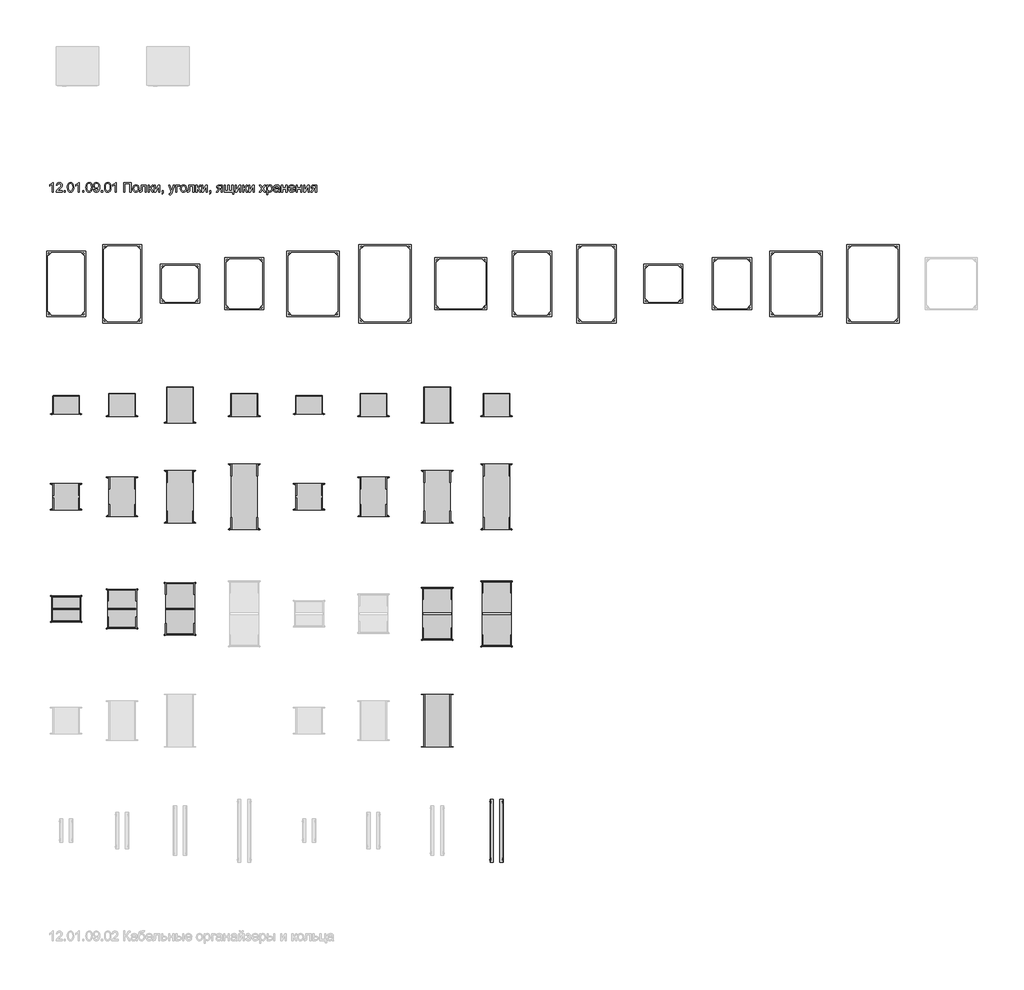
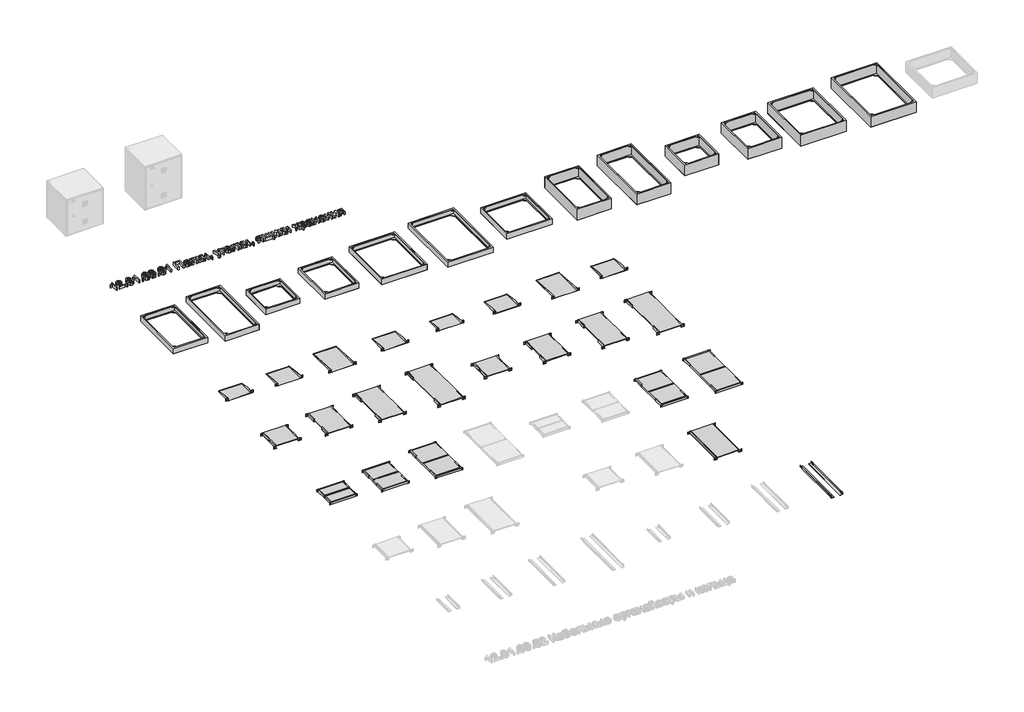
# One storey, part 4 of 9: 37 proxies.
"""IFC4 building model written with IfcOpenShell, lengths in millimetres."""

from ifc_helpers import new_model, si_unit, origin, origin_with_axes, place, context, project, spatial, polyline, outline, extrude, transform, mapped, element, save
from components import rs05_350p_7bdc1934, bs05_1h61_d823f380, bs05_1h62_e8783a7f, bs05_1h66_db48ce83, bs05_1h67_fe30b583, bs05_1h81_ce5c7a65, bs05_1h82_7e8a83d8, bs05_1h88_060fac11, bs05_2h61_8f00bbb0, bs05_2h62_645fab27, bs05_2h66_9faa6339, bs05_2h68_96ca8588, bs05_2h81_4a389308, bs05_2h82_ed295d53, fs05_1000pi_1325bcf8, fs05_400mp_c59a2a9c, fs05_400pi_c7cb46ca, fs05_600pi_6c495413, fs05_600pm_b98099e4, fs05_800pi_de279b3e, fs05_800pm_aac56196, fs05_1000pm_f160d74f, rs05_280m_469b61f3, rs05_550p_192c16dc, sr05_1000_026dfe76, sr05_1000_b6e2f19d, ss05_800pi_71e741bb

model = new_model("IFC4")

# Units and contexts
model_context = context("Model", 3, world=origin())
ifc_project = project(units=[si_unit("LENGTHUNIT", "METRE", prefix="MILLI")], contexts=[model_context])

# Site, building, storey
site = spatial("IfcSite", under=ifc_project)
building = spatial("IfcBuilding", under=site)
storey = spatial("IfcBuildingStorey", under=building, Name="Уровень 1", Elevation=0.0)

# Proxies
placement = place(None, origin())
element("IfcBuildingElementProxy", 1, Name="Надпись на модели 1", ObjectType="Надпись на модели 1", at=placement, inside=storey, context=model_context, shape_type="SweptSolid", body=[
    extrude(outline(polyline([(-45344.4287165, -25572.1712032), (-45362.8902549, -25572.1712032), (-45362.8902549, -25457.0750493), (-45380.3782357, -25469.532982), (-45399.8133319, -25478.8538955), (-45399.8133319, -25461.4019724), (-45372.7520338, -25444.1303378), (-45356.3277549, -25424.4788955), (-45344.4287165, -25424.4788955), (-45344.4287165, -25572.1712032)])), origin_with_axes(), (0.0, 0.0, 1.0), 50.0),
    extrude(outline(polyline([(-45205.967178, -25553.7096647), (-45205.967178, -25572.1712032), (-45302.8902549, -25572.1712032), (-45300.9070819, -25559.4428378), (-45289.6931395, -25539.845482), (-45266.5801588, -25518.4452416), (-45234.7051588, -25487.6880301), (-45228.7285963, -25477.0870686), (-45226.7364088, -25466.7745686), (-45228.615916, -25457.5302777), (-45234.2544376, -25449.845482), (-45242.9218054, -25444.666696), (-45253.8878511, -25442.9404339), (-45265.4037766, -25444.6261311), (-45274.3505915, -25449.6832224), (-45280.1243294, -25457.7150734), (-45282.1210242, -25468.3250493), (-45300.5825626, -25466.017357), (-45296.1069016, -25448.1597849), (-45286.4299184, -25435.1159147), (-45272.0564208, -25427.1381503), (-45253.4912165, -25424.4788955), (-45234.7907958, -25427.4356262), (-45220.4443415, -25436.3058186), (-45211.3172381, -25449.5570205), (-45208.2748703, -25465.6567801), (-45211.5561203, -25483.1627897), (-45222.4635722, -25501.2637512), (-45248.9118895, -25526.5582224), (-45270.1498703, -25544.3166359), (-45278.4791972, -25553.7096647), (-45205.967178, -25553.7096647)])), origin_with_axes(), (0.0, 0.0, 1.0), 50.0),
    extrude(outline(polyline([(-45178.2748703, -25572.1712032), (-45178.2748703, -25553.7096647), (-45159.8133319, -25553.7096647), (-45159.8133319, -25572.1712032), (-45178.2748703, -25572.1712032)])), origin_with_axes(), (0.0, 0.0, 1.0), 50.0),
    extrude(outline(polyline([(-45129.8133319, -25499.5149532), (-45128.4566612, -25475.8746287), (-45124.3866492, -25457.0209628), (-45117.6438607, -25442.665494), (-45108.2688607, -25432.5197609), (-45096.194041, -25426.4891118), (-45081.3517934, -25424.4788955), (-45059.7892934, -25429.2385109), (-45044.8974665, -25442.9584628), (-45036.2436203, -25464.8094243), (-45032.8902549, -25499.5149532), (-45034.233404, -25523.0200613), (-45038.2628511, -25541.8286551), (-45044.9650746, -25556.1976455), (-45054.326553, -25566.3839436), (-45066.428416, -25572.4551575), (-45081.3517934, -25574.4788955), (-45100.5344857, -25570.9632705), (-45115.1017934, -25560.4163955), (-45126.1354472, -25535.4374291), (-45129.8133319, -25499.5149532)]), holes=[polyline([(-45111.3517934, -25499.4788955), (-45109.1883319, -25528.5188594), (-45102.6979472, -25545.3262512), (-45093.0344857, -25553.3445806), (-45081.3517934, -25556.017357), (-45069.6691011, -25553.3355662), (-45060.0056395, -25545.2901936), (-45053.5152549, -25528.4737873), (-45051.3517934, -25499.4788955), (-45053.4431395, -25471.0924772), (-45059.717178, -25454.1543762), (-45069.3626107, -25445.7439195), (-45081.5681395, -25442.9404339), (-45093.1246299, -25445.4103859), (-45102.4094857, -25452.8202416), (-45109.1162165, -25470.8130301), (-45111.3517934, -25499.4788955)])]), origin_with_axes(), (0.0, 0.0, 1.0), 50.0),
    extrude(outline(polyline([(-44947.5056395, -25572.1712032), (-44965.967178, -25572.1712032), (-44965.967178, -25457.0750493), (-44983.4551588, -25469.532982), (-45002.8902549, -25478.8538955), (-45002.8902549, -25461.4019724), (-44975.8289569, -25444.1303378), (-44959.404678, -25424.4788955), (-44947.5056395, -25424.4788955), (-44947.5056395, -25572.1712032)])), origin_with_axes(), (0.0, 0.0, 1.0), 50.0),
    extrude(outline(polyline([(-44894.4287165, -25572.1712032), (-44894.4287165, -25553.7096647), (-44875.967178, -25553.7096647), (-44875.967178, -25572.1712032), (-44894.4287165, -25572.1712032)])), origin_with_axes(), (0.0, 0.0, 1.0), 50.0),
    extrude(outline(polyline([(-44845.967178, -25499.5149532), (-44844.6105073, -25475.8746287), (-44840.5404953, -25457.0209628), (-44833.7977069, -25442.665494), (-44824.4227069, -25432.5197609), (-44812.3478871, -25426.4891118), (-44797.5056395, -25424.4788955), (-44775.9431395, -25429.2385109), (-44761.0513126, -25442.9584628), (-44752.3974665, -25464.8094243), (-44749.0441011, -25499.5149532), (-44750.3872501, -25523.0200613), (-44754.4166972, -25541.8286551), (-44761.1189208, -25556.1976455), (-44770.4803992, -25566.3839436), (-44782.5822621, -25572.4551575), (-44797.5056395, -25574.4788955), (-44816.6883319, -25570.9632705), (-44831.2556395, -25560.4163955), (-44842.2892934, -25535.4374291), (-44845.967178, -25499.5149532)]), holes=[polyline([(-44827.5056395, -25499.4788955), (-44825.342178, -25528.5188594), (-44818.8517934, -25545.3262512), (-44809.1883319, -25553.3445806), (-44797.5056395, -25556.017357), (-44785.8229472, -25553.3355662), (-44776.1594857, -25545.2901936), (-44769.6691011, -25528.4737873), (-44767.5056395, -25499.4788955), (-44769.5969857, -25471.0924772), (-44775.8710242, -25454.1543762), (-44785.5164569, -25445.7439195), (-44797.7219857, -25442.9404339), (-44809.2784761, -25445.4103859), (-44818.5633319, -25452.8202416), (-44825.2700626, -25470.8130301), (-44827.5056395, -25499.4788955)])]), origin_with_axes(), (0.0, 0.0, 1.0), 50.0),
    extrude(outline(polyline([(-44730.5825626, -25535.2481262), (-44712.1210242, -25532.9404339), (-44708.9659761, -25543.4197008), (-44703.8277549, -25550.5546166), (-44688.1066011, -25556.017357), (-44673.1606876, -25552.501732), (-44663.0284761, -25543.1087032), (-44656.9888126, -25527.0630301), (-44654.3205434, -25505.6447609), (-44654.4287165, -25502.0389916), (-44669.1943415, -25516.0293762), (-44689.4407357, -25521.4019724), (-44706.2751708, -25518.1207224), (-44720.2880915, -25508.2769724), (-44729.7397141, -25493.0696407), (-44732.8902549, -25473.6976455), (-44729.5864689, -25453.6856262), (-44719.6751107, -25438.0005301), (-44704.787791, -25427.8593041), (-44686.5561203, -25424.4788955), (-44672.7865891, -25426.407982), (-44660.2520338, -25432.1952416), (-44649.7682597, -25441.5522128), (-44642.1510722, -25454.1904339), (-44637.5131516, -25471.6603859), (-44635.967178, -25495.5125493), (-44637.5086444, -25520.8025133), (-44642.1330434, -25540.3502897), (-44649.7998102, -25555.0392921), (-44660.4683799, -25565.7529339), (-44673.6790169, -25572.2974051), (-44688.9719857, -25574.4788955), (-44704.7562405, -25571.9052777), (-44717.3493895, -25564.1844243), (-44726.1564809, -25551.8031142), (-44730.5825626, -25535.2481262)]), holes=[polyline([(-44654.4287165, -25473.2649532), (-44656.420904, -25460.7529339), (-44662.3974665, -25451.1255301), (-44671.6733078, -25444.986708), (-44683.5633319, -25442.9404339), (-44695.8950626, -25445.1444604), (-44705.7748703, -25451.7565397), (-44712.2652549, -25461.8752296), (-44714.4287165, -25474.5990878), (-44712.3824424, -25486.0068402), (-44706.2436203, -25495.0618282), (-44696.607202, -25500.9707825), (-44684.0681395, -25502.9404339), (-44672.2727669, -25500.9707825), (-44662.7760722, -25495.0618282), (-44656.5155554, -25485.6733065), (-44654.4287165, -25473.2649532)])]), origin_with_axes(), (0.0, 0.0, 1.0), 50.0),
    extrude(outline(polyline([(-44610.5825626, -25572.1712032), (-44610.5825626, -25553.7096647), (-44592.1210242, -25553.7096647), (-44592.1210242, -25572.1712032), (-44610.5825626, -25572.1712032)])), origin_with_axes(), (0.0, 0.0, 1.0), 50.0),
    extrude(outline(polyline([(-44562.1210242, -25499.5149532), (-44560.7643535, -25475.8746287), (-44556.6943415, -25457.0209628), (-44549.951553, -25442.665494), (-44540.576553, -25432.5197609), (-44528.5017333, -25426.4891118), (-44513.6594857, -25424.4788955), (-44492.0969857, -25429.2385109), (-44477.2051588, -25442.9584628), (-44468.5513126, -25464.8094243), (-44465.1979472, -25499.5149532), (-44466.5410963, -25523.0200613), (-44470.5705434, -25541.8286551), (-44477.2727669, -25556.1976455), (-44486.6342453, -25566.3839436), (-44498.7361083, -25572.4551575), (-44513.6594857, -25574.4788955), (-44532.842178, -25570.9632705), (-44547.4094857, -25560.4163955), (-44558.4431395, -25535.4374291), (-44562.1210242, -25499.5149532)]), holes=[polyline([(-44543.6594857, -25499.4788955), (-44541.4960242, -25528.5188594), (-44535.0056395, -25545.3262512), (-44525.342178, -25553.3445806), (-44513.6594857, -25556.017357), (-44501.9767934, -25553.3355662), (-44492.3133319, -25545.2901936), (-44485.8229472, -25528.4737873), (-44483.6594857, -25499.4788955), (-44485.7508319, -25471.0924772), (-44492.0248703, -25454.1543762), (-44501.670303, -25445.7439195), (-44513.8758319, -25442.9404339), (-44525.4323222, -25445.4103859), (-44534.717178, -25452.8202416), (-44541.4239088, -25470.8130301), (-44543.6594857, -25499.4788955)])]), origin_with_axes(), (0.0, 0.0, 1.0), 50.0),
    extrude(outline(polyline([(-44379.8133319, -25572.1712032), (-44398.2748703, -25572.1712032), (-44398.2748703, -25457.0750493), (-44415.7628511, -25469.532982), (-44435.1979472, -25478.8538955), (-44435.1979472, -25461.4019724), (-44408.1366492, -25444.1303378), (-44391.7123703, -25424.4788955), (-44379.8133319, -25424.4788955), (-44379.8133319, -25572.1712032)])), origin_with_axes(), (0.0, 0.0, 1.0), 50.0),
    extrude(outline(polyline([(-44271.3517934, -25424.4788955), (-44155.967178, -25424.4788955), (-44155.967178, -25572.1712032), (-44174.4287165, -25572.1712032), (-44174.4287165, -25442.9404339), (-44252.8902549, -25442.9404339), (-44252.8902549, -25572.1712032), (-44271.3517934, -25572.1712032), (-44271.3517934, -25424.4788955)])), origin_with_axes(), (0.0, 0.0, 1.0), 50.0),
    extrude(outline(polyline([(-44130.5825626, -25517.9404339), (-44126.5891732, -25491.7895926), (-44114.6090049, -25473.4091839), (-44099.8073222, -25464.4037753), (-44082.0849665, -25461.4019724), (-44062.6904352, -25465.057321), (-44047.1991492, -25476.0233666), (-44037.0444016, -25493.4347248), (-44033.6594857, -25516.4260109), (-44035.1558799, -25535.0768522), (-44039.6450626, -25549.2745686), (-44046.9963246, -25559.9070806), (-44057.0789569, -25567.8623089), (-44069.0546179, -25572.8247488), (-44082.0849665, -25574.4788955), (-44101.7138727, -25570.8370686), (-44117.1871299, -25559.9115878), (-44127.2337044, -25542.1351455), (-44130.5825626, -25517.9404339)]), holes=[polyline([(-44112.1210242, -25517.9043762), (-44109.9846059, -25534.6126094), (-44103.5753511, -25546.5161551), (-44093.9299184, -25553.6420565), (-44082.0849665, -25556.017357), (-44070.2941011, -25553.6285349), (-44060.6666972, -25546.4620686), (-44054.2574424, -25534.4007705), (-44052.1210242, -25517.3274532), (-44054.2709641, -25501.1059988), (-44060.7207838, -25489.3647128), (-44070.3617093, -25482.2388113), (-44082.0849665, -25479.8635109), (-44093.9299184, -25482.2297969), (-44103.5753511, -25489.3286551), (-44109.9846059, -25501.2051575), (-44112.1210242, -25517.9043762)])]), origin_with_axes(), (0.0, 0.0, 1.0), 50.0),
    extrude(outline(polyline([(-44003.6594857, -25463.7096647), (-43920.5825626, -25463.7096647), (-43920.5825626, -25572.0630301), (-43939.0441011, -25572.0630301), (-43939.0441011, -25482.1712032), (-43985.1979472, -25482.1712032), (-43985.1979472, -25533.9139916), (-43986.4419376, -25557.7841839), (-43993.2748703, -25567.8623089), (-44009.4287165, -25572.1712032), (-44024.4287165, -25571.2337032), (-44024.4287165, -25553.7096647), (-44016.1715049, -25553.7096647), (-44007.8241492, -25552.5738474), (-44004.4888126, -25548.9680782), (-44003.6594857, -25532.8683186), (-44003.6594857, -25463.7096647)])), origin_with_axes(), (0.0, 0.0, 1.0), 50.0),
    extrude(outline(polyline([(-43892.8902549, -25463.7096647), (-43874.4287165, -25463.7096647), (-43874.4287165, -25509.8635109), (-43862.060928, -25506.5462032), (-43851.9287165, -25487.2192801), (-43843.5092453, -25470.5425974), (-43836.0813607, -25465.1159147), (-43822.5777549, -25463.7096647), (-43819.0441011, -25463.7096647), (-43819.0441011, -25482.2793762), (-43824.0200626, -25482.1712032), (-43833.0344857, -25484.1183186), (-43839.3806395, -25496.2697609), (-43846.826553, -25509.4127897), (-43857.2652549, -25515.8490878), (-43845.6186203, -25523.033583), (-43834.1883319, -25538.1687993), (-43814.4287165, -25572.1712032), (-43835.4142934, -25572.1712032), (-43854.7772742, -25538.8899532), (-43864.5128511, -25524.8094243), (-43874.4287165, -25521.4019724), (-43874.4287165, -25572.1712032), (-43892.8902549, -25572.1712032), (-43892.8902549, -25463.7096647)])), origin_with_axes(), (0.0, 0.0, 1.0), 50.0),
    extrude(outline(polyline([(-43802.8902549, -25463.7096647), (-43784.4287165, -25463.7096647), (-43784.4287165, -25546.4260109), (-43739.0681395, -25463.7096647), (-43715.1979472, -25463.7096647), (-43715.1979472, -25572.1712032), (-43733.6594857, -25572.1712032), (-43733.6594857, -25489.9596647), (-43778.7316011, -25572.1712032), (-43802.8902549, -25572.1712032), (-43802.8902549, -25463.7096647)])), origin_with_axes(), (0.0, 0.0, 1.0), 50.0),
    extrude(outline(polyline([(-43682.8902549, -25572.1712032), (-43682.8902549, -25553.7096647), (-43664.4287165, -25553.7096647), (-43664.4287165, -25572.1712032), (-43667.7460242, -25591.0474051), (-43678.2748703, -25602.1712032), (-43682.8902549, -25595.2481262), (-43676.1114088, -25587.2793762), (-43673.6955434, -25572.1712032), (-43682.8902549, -25572.1712032)])), origin_with_axes(), (0.0, 0.0, 1.0), 50.0),
    extrude(outline(polyline([(-43572.1210242, -25613.7096647), (-43574.4287165, -25595.9332224), (-43565.0537165, -25597.5558186), (-43556.2916972, -25595.5185589), (-43550.9191011, -25589.8394724), (-43545.8710242, -25576.2457224), (-43544.4287165, -25571.7745686), (-43583.6594857, -25463.7096647), (-43564.1883319, -25463.7096647), (-43543.3830434, -25523.9260109), (-43536.1354472, -25548.0125493), (-43528.8878511, -25526.7385109), (-43507.5056395, -25463.7096647), (-43488.1787165, -25463.7096647), (-43525.9311203, -25574.767357), (-43535.7388126, -25598.8538955), (-43546.4479472, -25611.8707224), (-43560.8349665, -25616.017357), (-43572.1210242, -25613.7096647)])), origin_with_axes(), (0.0, 0.0, 1.0), 50.0),
    extrude(outline(polyline([(-43472.8902549, -25463.7096647), (-43412.8902549, -25463.7096647), (-43412.8902549, -25482.1712032), (-43454.4287165, -25482.1712032), (-43454.4287165, -25572.1712032), (-43472.8902549, -25572.1712032), (-43472.8902549, -25463.7096647)])), origin_with_axes(), (0.0, 0.0, 1.0), 50.0),
    extrude(outline(polyline([(-43403.6594857, -25517.9404339), (-43399.6660963, -25491.7895926), (-43387.685928, -25473.4091839), (-43372.8842453, -25464.4037753), (-43355.1618895, -25461.4019724), (-43335.7673583, -25465.057321), (-43320.2760722, -25476.0233666), (-43310.1213246, -25493.4347248), (-43306.7364088, -25516.4260109), (-43308.232803, -25535.0768522), (-43312.7219857, -25549.2745686), (-43320.0732477, -25559.9070806), (-43330.1558799, -25567.8623089), (-43342.131541, -25572.8247488), (-43355.1618895, -25574.4788955), (-43374.7907958, -25570.8370686), (-43390.264053, -25559.9115878), (-43400.3106275, -25542.1351455), (-43403.6594857, -25517.9404339)]), holes=[polyline([(-43385.1979472, -25517.9043762), (-43383.061529, -25534.6126094), (-43376.6522742, -25546.5161551), (-43367.0068415, -25553.6420565), (-43355.1618895, -25556.017357), (-43343.3710242, -25553.6285349), (-43333.7436203, -25546.4620686), (-43327.3343655, -25534.4007705), (-43325.1979472, -25517.3274532), (-43327.3478871, -25501.1059988), (-43333.7977069, -25489.3647128), (-43343.4386323, -25482.2388113), (-43355.1618895, -25479.8635109), (-43367.0068415, -25482.2297969), (-43376.6522742, -25489.3286551), (-43383.061529, -25501.2051575), (-43385.1979472, -25517.9043762)])]), origin_with_axes(), (0.0, 0.0, 1.0), 50.0),
    extrude(outline(polyline([(-43276.7364088, -25463.7096647), (-43193.6594857, -25463.7096647), (-43193.6594857, -25572.0630301), (-43212.1210242, -25572.0630301), (-43212.1210242, -25482.1712032), (-43258.2748703, -25482.1712032), (-43258.2748703, -25533.9139916), (-43259.5188607, -25557.7841839), (-43266.3517934, -25567.8623089), (-43282.5056395, -25572.1712032), (-43297.5056395, -25571.2337032), (-43297.5056395, -25553.7096647), (-43289.248428, -25553.7096647), (-43280.9010722, -25552.5738474), (-43277.5657357, -25548.9680782), (-43276.7364088, -25532.8683186), (-43276.7364088, -25463.7096647)])), origin_with_axes(), (0.0, 0.0, 1.0), 50.0),
    extrude(outline(polyline([(-43165.967178, -25463.7096647), (-43147.5056395, -25463.7096647), (-43147.5056395, -25509.8635109), (-43135.1378511, -25506.5462032), (-43125.0056395, -25487.2192801), (-43116.5861684, -25470.5425974), (-43109.1582838, -25465.1159147), (-43095.654678, -25463.7096647), (-43092.1210242, -25463.7096647), (-43092.1210242, -25482.2793762), (-43097.0969857, -25482.1712032), (-43106.1114088, -25484.1183186), (-43112.4575626, -25496.2697609), (-43119.9034761, -25509.4127897), (-43130.342178, -25515.8490878), (-43118.6955434, -25523.033583), (-43107.2652549, -25538.1687993), (-43087.5056395, -25572.1712032), (-43108.4912165, -25572.1712032), (-43127.8541972, -25538.8899532), (-43137.5897742, -25524.8094243), (-43147.5056395, -25521.4019724), (-43147.5056395, -25572.1712032), (-43165.967178, -25572.1712032), (-43165.967178, -25463.7096647)])), origin_with_axes(), (0.0, 0.0, 1.0), 50.0),
    extrude(outline(polyline([(-43075.967178, -25463.7096647), (-43057.5056395, -25463.7096647), (-43057.5056395, -25546.4260109), (-43012.1450626, -25463.7096647), (-42988.2748703, -25463.7096647), (-42988.2748703, -25572.1712032), (-43006.7364088, -25572.1712032), (-43006.7364088, -25489.9596647), (-43051.8085242, -25572.1712032), (-43075.967178, -25572.1712032), (-43075.967178, -25463.7096647)])), origin_with_axes(), (0.0, 0.0, 1.0), 50.0),
    extrude(outline(polyline([(-42955.967178, -25572.1712032), (-42955.967178, -25553.7096647), (-42937.5056395, -25553.7096647), (-42937.5056395, -25572.1712032), (-42940.8229472, -25591.0474051), (-42951.3517934, -25602.1712032), (-42955.967178, -25595.2481262), (-42949.1883319, -25587.2793762), (-42946.7724665, -25572.1712032), (-42955.967178, -25572.1712032)])), origin_with_axes(), (0.0, 0.0, 1.0), 50.0),
    extrude(outline(polyline([(-42762.1210242, -25463.7096647), (-42762.1210242, -25572.1712032), (-42780.5825626, -25572.1712032), (-42780.5825626, -25530.6327416), (-42790.6426588, -25530.6327416), (-42804.3445819, -25532.9764916), (-42817.217178, -25548.7337032), (-42831.9287165, -25572.1712032), (-42853.2748703, -25572.1712032), (-42834.7412165, -25542.5317801), (-42826.5561203, -25531.8947609), (-42819.0200626, -25527.1712032), (-42831.6402549, -25523.3040157), (-42840.5104472, -25515.9572609), (-42845.7568415, -25506.1856262), (-42847.5056395, -25495.0437993), (-42845.1168174, -25482.4055782), (-42837.9503511, -25472.3995686), (-42826.2586444, -25465.8821407), (-42810.2941011, -25463.7096647), (-42762.1210242, -25463.7096647)]), holes=[polyline([(-42780.5825626, -25482.1712032), (-42804.9215049, -25482.1712032), (-42817.4921179, -25483.2394123), (-42824.6270338, -25486.4440397), (-42829.0441011, -25496.4500493), (-42827.4169977, -25503.4858065), (-42822.5356876, -25508.3671166), (-42799.4767934, -25512.1712032), (-42780.5825626, -25512.1712032), (-42780.5825626, -25482.1712032)])]), origin_with_axes(), (0.0, 0.0, 1.0), 50.0),
    extrude(outline(polyline([(-42734.4287165, -25463.7096647), (-42715.967178, -25463.7096647), (-42715.967178, -25553.7096647), (-42674.4287165, -25553.7096647), (-42674.4287165, -25463.7096647), (-42655.967178, -25463.7096647), (-42655.967178, -25553.7096647), (-42614.4287165, -25553.7096647), (-42614.4287165, -25463.7096647), (-42595.967178, -25463.7096647), (-42595.967178, -25553.7096647), (-42584.4287165, -25553.7096647), (-42584.4287165, -25602.1712032), (-42602.8902549, -25602.1712032), (-42602.8902549, -25572.1712032), (-42734.4287165, -25572.1712032), (-42734.4287165, -25463.7096647)])), origin_with_axes(), (0.0, 0.0, 1.0), 50.0),
    extrude(outline(polyline([(-42565.967178, -25463.7096647), (-42547.5056395, -25463.7096647), (-42547.5056395, -25546.4260109), (-42502.1450626, -25463.7096647), (-42478.2748703, -25463.7096647), (-42478.2748703, -25572.1712032), (-42496.7364088, -25572.1712032), (-42496.7364088, -25489.9596647), (-42541.8085242, -25572.1712032), (-42565.967178, -25572.1712032), (-42565.967178, -25463.7096647)])), origin_with_axes(), (0.0, 0.0, 1.0), 50.0),
    extrude(outline(polyline([(-42450.5825626, -25463.7096647), (-42432.1210242, -25463.7096647), (-42432.1210242, -25509.8635109), (-42419.7532357, -25506.5462032), (-42409.6210242, -25487.2192801), (-42401.201553, -25470.5425974), (-42393.7736684, -25465.1159147), (-42380.2700626, -25463.7096647), (-42376.7364088, -25463.7096647), (-42376.7364088, -25482.2793762), (-42381.7123703, -25482.1712032), (-42390.7267934, -25484.1183186), (-42397.0729472, -25496.2697609), (-42404.5188607, -25509.4127897), (-42414.9575626, -25515.8490878), (-42403.310928, -25523.033583), (-42391.8806395, -25538.1687993), (-42372.1210242, -25572.1712032), (-42393.1066011, -25572.1712032), (-42412.4695819, -25538.8899532), (-42422.2051588, -25524.8094243), (-42432.1210242, -25521.4019724), (-42432.1210242, -25572.1712032), (-42450.5825626, -25572.1712032), (-42450.5825626, -25463.7096647)])), origin_with_axes(), (0.0, 0.0, 1.0), 50.0),
    extrude(outline(polyline([(-42360.5825626, -25463.7096647), (-42342.1210242, -25463.7096647), (-42342.1210242, -25546.4260109), (-42296.7604472, -25463.7096647), (-42272.8902549, -25463.7096647), (-42272.8902549, -25572.1712032), (-42291.3517934, -25572.1712032), (-42291.3517934, -25489.9596647), (-42336.4239088, -25572.1712032), (-42360.5825626, -25572.1712032), (-42360.5825626, -25463.7096647)])), origin_with_axes(), (0.0, 0.0, 1.0), 50.0),
    extrude(outline(polyline([(-42199.0441011, -25572.1712032), (-42159.5969857, -25517.6519724), (-42196.7364088, -25463.7096647), (-42174.5248703, -25463.7096647), (-42156.6041972, -25489.6712032), (-42148.2388126, -25501.9308186), (-42140.9912165, -25491.9067801), (-42120.5825626, -25463.7096647), (-42098.3710242, -25463.7096647), (-42137.3854472, -25517.6519724), (-42099.8133319, -25572.1712032), (-42122.0248703, -25572.1712032), (-42144.6330434, -25539.3947609), (-42148.779678, -25533.4091839), (-42176.8325626, -25572.1712032), (-42199.0441011, -25572.1712032)])), origin_with_axes(), (0.0, 0.0, 1.0), 50.0),
    extrude(outline(polyline([(-42083.6594857, -25613.7096647), (-42083.6594857, -25463.7096647), (-42065.1979472, -25463.7096647), (-42065.1979472, -25481.8106262), (-42052.4335242, -25466.5041359), (-42035.1979472, -25461.4019724), (-42022.7129713, -25463.1868282), (-42011.7965049, -25468.5413955), (-42002.9082838, -25477.1411551), (-41996.5080434, -25488.6615878), (-41991.3517934, -25517.111107), (-41992.8076227, -25532.899869), (-41997.1751107, -25547.0209628), (-42004.3145338, -25558.7577416), (-42014.0861684, -25567.3935589), (-42025.4668775, -25572.7075613), (-42037.4335242, -25574.4788955), (-42053.4972261, -25569.7373089), (-42065.1979472, -25557.7481262), (-42065.1979472, -25613.7096647), (-42083.6594857, -25613.7096647)]), holes=[polyline([(-42065.1979472, -25518.8058186), (-42063.2012525, -25535.3562993), (-42057.2111684, -25546.9308186), (-42048.3725266, -25553.7457224), (-42037.8301588, -25556.017357), (-42027.1165169, -25553.6645926), (-42018.0525145, -25546.6062993), (-42011.8731275, -25534.6081022), (-42009.8133319, -25517.4356262), (-42011.8235482, -25500.9752897), (-42017.8541972, -25489.2385109), (-42026.6793174, -25482.2072609), (-42037.0729472, -25479.8635109), (-42047.5071419, -25482.3559988), (-42056.670303, -25489.8334628), (-42063.0660362, -25502.0615277), (-42065.1979472, -25518.8058186)])]), origin_with_axes(), (0.0, 0.0, 1.0), 50.0),
    extrude(outline(polyline([(-41901.3517934, -25558.3250493), (-41919.2544376, -25570.8370686), (-41939.0320819, -25574.4788955), (-41954.4602669, -25572.2883907), (-41965.8409761, -25565.7168762), (-41972.8587044, -25555.7379099), (-41975.1979472, -25543.3250493), (-41971.6642934, -25528.7216839), (-41962.3794376, -25518.1207224), (-41949.4527549, -25512.0630301), (-41933.4791972, -25509.2865878), (-41901.4599665, -25502.9404339), (-41901.3517934, -25498.829857), (-41902.622827, -25490.5906743), (-41906.435928, -25485.2000493), (-41914.9635722, -25481.1976455), (-41926.8445819, -25479.8635109), (-41945.5224665, -25483.4151936), (-41954.4287165, -25496.017357), (-41972.8902549, -25493.7096647), (-41964.9034761, -25475.6808186), (-41948.8217453, -25465.1159147), (-41924.4647742, -25461.4019724), (-41902.0909761, -25464.6832224), (-41889.4527549, -25472.9224051), (-41883.7916972, -25485.4524532), (-41882.8902549, -25501.6062993), (-41882.8902549, -25524.5750493), (-41881.9527549, -25556.6483666), (-41878.2748703, -25572.1712032), (-41896.7364088, -25572.1712032), (-41901.3517934, -25558.3250493)]), holes=[polyline([(-41901.3517934, -25521.4019724), (-41931.1354472, -25527.0630301), (-41947.0188607, -25530.0558186), (-41954.2123703, -25534.923607), (-41956.7364088, -25542.0269724), (-41951.2376107, -25552.0149532), (-41935.1017934, -25556.017357), (-41916.4239088, -25551.6002897), (-41904.3806395, -25540.9091839), (-41901.4599665, -25526.6303378), (-41901.3517934, -25521.4019724)])]), origin_with_axes(), (0.0, 0.0, 1.0), 50.0),
    extrude(outline(polyline([(-41857.5056395, -25463.7096647), (-41839.0441011, -25463.7096647), (-41839.0441011, -25505.2481262), (-41790.5825626, -25505.2481262), (-41790.5825626, -25463.7096647), (-41772.1210242, -25463.7096647), (-41772.1210242, -25572.1712032), (-41790.5825626, -25572.1712032), (-41790.5825626, -25523.7096647), (-41839.0441011, -25523.7096647), (-41839.0441011, -25572.1712032), (-41857.5056395, -25572.1712032), (-41857.5056395, -25463.7096647)])), origin_with_axes(), (0.0, 0.0, 1.0), 50.0),
    extrude(outline(polyline([(-41668.4912165, -25539.8635109), (-41650.3902549, -25542.1712032), (-41656.91219, -25555.8100253), (-41667.3193415, -25566.0053378), (-41681.3773343, -25572.3605061), (-41698.8517934, -25574.4788955), (-41720.513452, -25570.8235469), (-41737.1811203, -25559.8575012), (-41747.8091251, -25542.2928979), (-41751.3517934, -25518.8418762), (-41747.7730674, -25494.6020926), (-41737.0368895, -25476.4740878), (-41720.5945819, -25465.1700012), (-41699.8974665, -25461.4019724), (-41679.8448823, -25465.1609868), (-41663.8217453, -25476.4380301), (-41653.3154352, -25494.5299772), (-41649.8133319, -25518.7337032), (-41649.9215049, -25523.7096647), (-41732.8902549, -25523.7096647), (-41729.6946419, -25537.5287753), (-41722.2712645, -25547.6880301), (-41711.5576227, -25553.9350253), (-41698.4912165, -25556.017357), (-41680.3902549, -25552.1591839), (-41668.4912165, -25539.8635109)]), holes=[polyline([(-41732.8902549, -25505.2481262), (-41668.2748703, -25505.2481262), (-41670.7718655, -25495.4945205), (-41675.6666972, -25488.517357), (-41686.4299184, -25482.0269724), (-41699.9695819, -25479.8635109), (-41712.4139929, -25481.5897729), (-41722.7039569, -25486.7685589), (-41729.8569016, -25494.8409748), (-41732.8902549, -25505.2481262)])]), origin_with_axes(), (0.0, 0.0, 1.0), 50.0),
    extrude(outline(polyline([(-41631.3517934, -25463.7096647), (-41612.8902549, -25463.7096647), (-41612.8902549, -25505.2481262), (-41564.4287165, -25505.2481262), (-41564.4287165, -25463.7096647), (-41545.967178, -25463.7096647), (-41545.967178, -25572.1712032), (-41564.4287165, -25572.1712032), (-41564.4287165, -25523.7096647), (-41612.8902549, -25523.7096647), (-41612.8902549, -25572.1712032), (-41631.3517934, -25572.1712032), (-41631.3517934, -25463.7096647)])), origin_with_axes(), (0.0, 0.0, 1.0), 50.0),
    extrude(outline(polyline([(-41518.2748703, -25463.7096647), (-41499.8133319, -25463.7096647), (-41499.8133319, -25546.4260109), (-41454.4527549, -25463.7096647), (-41430.5825626, -25463.7096647), (-41430.5825626, -25572.1712032), (-41449.0441011, -25572.1712032), (-41449.0441011, -25489.9596647), (-41494.1162165, -25572.1712032), (-41518.2748703, -25572.1712032), (-41518.2748703, -25463.7096647)])), origin_with_axes(), (0.0, 0.0, 1.0), 50.0),
    extrude(outline(polyline([(-41319.8133319, -25463.7096647), (-41319.8133319, -25572.1712032), (-41338.2748703, -25572.1712032), (-41338.2748703, -25530.6327416), (-41348.3349665, -25530.6327416), (-41362.0368895, -25532.9764916), (-41374.9094857, -25548.7337032), (-41389.6210242, -25572.1712032), (-41410.967178, -25572.1712032), (-41392.4335242, -25542.5317801), (-41384.248428, -25531.8947609), (-41376.7123703, -25527.1712032), (-41389.3325626, -25523.3040157), (-41398.2027549, -25515.9572609), (-41403.4491492, -25506.1856262), (-41405.1979472, -25495.0437993), (-41402.8091251, -25482.4055782), (-41395.6426588, -25472.3995686), (-41383.950952, -25465.8821407), (-41367.9864088, -25463.7096647), (-41319.8133319, -25463.7096647)]), holes=[polyline([(-41338.2748703, -25482.1712032), (-41362.6138126, -25482.1712032), (-41375.1844256, -25483.2394123), (-41382.3193415, -25486.4440397), (-41386.7364088, -25496.4500493), (-41385.1093054, -25503.4858065), (-41380.2279953, -25508.3671166), (-41357.1691011, -25512.1712032), (-41338.2748703, -25512.1712032), (-41338.2748703, -25482.1712032)])]), origin_with_axes(), (0.0, 0.0, 1.0), 50.0),
])
rs05_350p_shape = rs05_350p_7bdc1934(model_context)
element("IfcBuildingElementProxy", 2, Name="Полки консольные : RS135-350P", ObjectType="Полки консольные : RS135-350P", at=placement, inside=storey, context=model_context, shape_type="MappedRepresentation", body=[
    mapped(rs05_350p_shape, transform((-38567.1250607, -28827.537317, 0.0), x_axis=(1.0, 0.0, 0.0), y_axis=(0.0, 1.0, 0.0), z_axis=(0.0, 0.0, 1.0))),
])
element("IfcBuildingElementProxy", 3, Name="Полки консольные : RS105-350P", ObjectType="Полки консольные : RS105-350P", at=placement, inside=storey, context=model_context, shape_type="MappedRepresentation", body=[
    mapped(rs05_350p_shape, transform((-42425.8403871, -28827.537317, 0.0), x_axis=(1.0, 0.0, 0.0), y_axis=(0.0, 1.0, 0.0), z_axis=(0.0, 0.0, 1.0))),
])
bs05_1h61_shape = bs05_1h61_d823f380(model_context)
element("IfcBuildingElementProxy", 4, Name="Цоколь для напольных шкафов : BS05-1H61", ObjectType="Цоколь для напольных шкафов : BS05-1H61", at=placement, inside=storey, context=model_context, shape_type="MappedRepresentation", body=[
    mapped(bs05_1h61_shape, transform((-45148.3068058, -26973.2338066, 0.0), x_axis=(1.0, 0.0, 0.0), y_axis=(0.0, 1.0, 0.0), z_axis=(0.0, 0.0, 1.0))),
])
bs05_1h62_shape = bs05_1h62_e8783a7f(model_context)
element("IfcBuildingElementProxy", 5, Name="Цоколь для напольных шкафов : BS05-1H62", ObjectType="Цоколь для напольных шкафов : BS05-1H62", at=placement, inside=storey, context=model_context, shape_type="MappedRepresentation", body=[
    mapped(bs05_1h62_shape, transform((-44292.6745028, -26973.2338066, 0.0), x_axis=(1.0, 0.0, 0.0), y_axis=(0.0, 1.0, 0.0), z_axis=(0.0, 0.0, 1.0))),
])
bs05_1h66_shape = bs05_1h66_db48ce83(model_context)
element("IfcBuildingElementProxy", 6, Name="Цоколь для напольных шкафов : BS05-1H66", ObjectType="Цоколь для напольных шкафов : BS05-1H66", at=placement, inside=storey, context=model_context, shape_type="MappedRepresentation", body=[
    mapped(bs05_1h66_shape, transform((-43407.8729167, -26973.2338066, 0.0), x_axis=(1.0, 0.0, 0.0), y_axis=(0.0, 1.0, 0.0), z_axis=(0.0, 0.0, 1.0))),
])
bs05_1h67_shape = bs05_1h67_fe30b583(model_context)
element("IfcBuildingElementProxy", 7, Name="Цоколь для напольных шкафов : BS05-1H67", ObjectType="Цоколь для напольных шкафов : BS05-1H67", at=placement, inside=storey, context=model_context, shape_type="MappedRepresentation", body=[
    mapped(bs05_1h67_shape, transform((-42425.8403871, -26973.2338066, 0.0), x_axis=(1.0, 0.0, 0.0), y_axis=(0.0, 1.0, 0.0), z_axis=(0.0, 0.0, 1.0))),
])
bs05_1h81_shape = bs05_1h81_ce5c7a65(model_context)
element("IfcBuildingElementProxy", 8, Name="Цоколь для напольных шкафов : BS05-1H81", ObjectType="Цоколь для напольных шкафов : BS05-1H81", at=placement, inside=storey, context=model_context, shape_type="MappedRepresentation", body=[
    mapped(bs05_1h81_shape, transform((-41374.0847632, -26973.2338066, 0.0), x_axis=(1.0, 0.0, 0.0), y_axis=(0.0, 1.0, 0.0), z_axis=(0.0, 0.0, 1.0))),
])
bs05_1h82_shape = bs05_1h82_7e8a83d8(model_context)
element("IfcBuildingElementProxy", 9, Name="Цоколь для напольных шкафов : BS05-1H82", ObjectType="Цоколь для напольных шкафов : BS05-1H82", at=placement, inside=storey, context=model_context, shape_type="MappedRepresentation", body=[
    mapped(bs05_1h82_shape, transform((-40272.0522336, -26973.2338066, 0.0), x_axis=(1.0, 0.0, 0.0), y_axis=(0.0, 1.0, 0.0), z_axis=(0.0, 0.0, 1.0))),
])
bs05_1h88_shape = bs05_1h88_060fac11(model_context)
element("IfcBuildingElementProxy", 10, Name="Цоколь для напольных шкафов : BS05-1H88", ObjectType="Цоколь для напольных шкафов : BS05-1H88", at=placement, inside=storey, context=model_context, shape_type="MappedRepresentation", body=[
    mapped(bs05_1h88_shape, transform((-39115.5578169, -26973.2338066, 0.0), x_axis=(1.0, 0.0, 0.0), y_axis=(0.0, 1.0, 0.0), z_axis=(0.0, 0.0, 1.0))),
])
bs05_2h61_shape = bs05_2h61_8f00bbb0(model_context)
element("IfcBuildingElementProxy", 11, Name="Цоколь для напольных шкафов : BS05-2H61", ObjectType="Цоколь для напольных шкафов : BS05-2H61", at=placement, inside=storey, context=model_context, shape_type="MappedRepresentation", body=[
    mapped(bs05_2h61_shape, transform((-38027.1250607, -26973.2338066, 0.0), x_axis=(1.0, 0.0, 0.0), y_axis=(0.0, 1.0, 0.0), z_axis=(0.0, 0.0, 1.0))),
])
bs05_2h62_shape = bs05_2h62_645fab27(model_context)
element("IfcBuildingElementProxy", 12, Name="Цоколь для напольных шкафов : BS05-2H62", ObjectType="Цоколь для напольных шкафов : BS05-2H62", at=placement, inside=storey, context=model_context, shape_type="MappedRepresentation", body=[
    mapped(bs05_2h62_shape, transform((-37039.6426257, -26973.2338066, 0.0), x_axis=(1.0, 0.0, 0.0), y_axis=(0.0, 1.0, 0.0), z_axis=(0.0, 0.0, 1.0))),
])
bs05_2h66_shape = bs05_2h66_9faa6339(model_context)
element("IfcBuildingElementProxy", 13, Name="Цоколь для напольных шкафов : BS05-2H66", ObjectType="Цоколь для напольных шкафов : BS05-2H66", at=placement, inside=storey, context=model_context, shape_type="MappedRepresentation", body=[
    mapped(bs05_2h66_shape, transform((-36019.1170658, -26973.2338066, 0.0), x_axis=(1.0, 0.0, 0.0), y_axis=(0.0, 1.0, 0.0), z_axis=(0.0, 0.0, 1.0))),
])
bs05_2h68_shape = bs05_2h68_96ca8588(model_context)
element("IfcBuildingElementProxy", 14, Name="Цоколь для напольных шкафов : BS05-2H68", ObjectType="Цоколь для напольных шкафов : BS05-2H68", at=placement, inside=storey, context=model_context, shape_type="MappedRepresentation", body=[
    mapped(bs05_2h68_shape, transform((-34967.9715132, -26973.2338066, 0.0), x_axis=(1.0, 0.0, 0.0), y_axis=(0.0, 1.0, 0.0), z_axis=(0.0, 0.0, 1.0))),
])
bs05_2h81_shape = bs05_2h81_4a389308(model_context)
element("IfcBuildingElementProxy", 15, Name="Цоколь для напольных шкафов : BS05-2H81", ObjectType="Цоколь для напольных шкафов : BS05-2H81", at=placement, inside=storey, context=model_context, shape_type="MappedRepresentation", body=[
    mapped(bs05_2h81_shape, transform((-33990.1407277, -26973.2338066, 0.0), x_axis=(1.0, 0.0, 0.0), y_axis=(0.0, 1.0, 0.0), z_axis=(0.0, 0.0, 1.0))),
])
bs05_2h82_shape = bs05_2h82_ed295d53(model_context)
element("IfcBuildingElementProxy", 16, Name="Цоколь для напольных шкафов : BS05-2H82", ObjectType="Цоколь для напольных шкафов : BS05-2H82", at=placement, inside=storey, context=model_context, shape_type="MappedRepresentation", body=[
    mapped(bs05_2h82_shape, transform((-32815.4136322, -26973.2338066, 0.0), x_axis=(1.0, 0.0, 0.0), y_axis=(0.0, 1.0, 0.0), z_axis=(0.0, 0.0, 1.0))),
])
fs05_1000pi_shape = fs05_1000pi_1325bcf8(model_context)
element("IfcBuildingElementProxy", 17, Name="Полки стационарные универсальные : FS05-1000PI", ObjectType="Полки стационарные универсальные : FS05-1000PI", at=placement, inside=storey, context=model_context, shape_type="MappedRepresentation", body=[
    mapped(fs05_1000pi_shape, transform((-42425.8403871, -30232.3389031, 0.0), x_axis=(1.0, 0.0, 0.0), y_axis=(0.0, 1.0, 0.0), z_axis=(0.0, 0.0, 1.0))),
])
fs05_400mp_shape = fs05_400mp_c59a2a9c(model_context)
element("IfcBuildingElementProxy", 18, Name="Полки стационарные усиленные : FS05-400MP", ObjectType="Полки стационарные усиленные : FS05-400MP", at=placement, inside=storey, context=model_context, shape_type="MappedRepresentation", body=[
    mapped(fs05_400mp_shape, transform((-45148.3068058, -31947.1712032, 0.0), x_axis=(1.0, 0.0, 0.0), y_axis=(0.0, 1.0, 0.0), z_axis=(0.0, 0.0, 1.0))),
])
fs05_400pi_shape = fs05_400pi_c7cb46ca(model_context)
element("IfcBuildingElementProxy", 19, Name="Полки стационарные универсальные : FS05-400PI", ObjectType="Полки стационарные универсальные : FS05-400PI", at=placement, inside=storey, context=model_context, shape_type="MappedRepresentation", body=[
    mapped(fs05_400pi_shape, transform((-45148.3068058, -30232.3389031, 0.0), x_axis=(1.0, 0.0, 0.0), y_axis=(0.0, 1.0, 0.0), z_axis=(0.0, 0.0, 1.0))),
])
fs05_600pi_shape = fs05_600pi_6c495413(model_context)
element("IfcBuildingElementProxy", 20, Name="Полки стационарные универсальные : FS05-600PI", ObjectType="Полки стационарные универсальные : FS05-600PI", at=placement, inside=storey, context=model_context, shape_type="MappedRepresentation", body=[
    mapped(fs05_600pi_shape, transform((-44292.6745028, -30232.3389031, 0.0), x_axis=(1.0, 0.0, 0.0), y_axis=(0.0, 1.0, 0.0), z_axis=(0.0, 0.0, 1.0))),
])
fs05_600pm_shape = fs05_600pm_b98099e4(model_context)
element("IfcBuildingElementProxy", 21, Name="Полки стационарные усиленные : FS05-600PM", ObjectType="Полки стационарные усиленные : FS05-600PM", at=placement, inside=storey, context=model_context, shape_type="MappedRepresentation", body=[
    mapped(fs05_600pm_shape, transform((-44292.6745028, -31947.1712032, 0.0), x_axis=(1.0, 0.0, 0.0), y_axis=(0.0, 1.0, 0.0), z_axis=(0.0, 0.0, 1.0))),
])
fs05_800pi_shape = fs05_800pi_de279b3e(model_context)
element("IfcBuildingElementProxy", 22, Name="Полки стационарные универсальные : FS05-800PI", ObjectType="Полки стационарные универсальные : FS05-800PI", at=placement, inside=storey, context=model_context, shape_type="MappedRepresentation", body=[
    mapped(fs05_800pi_shape, transform((-43407.8729167, -30232.3389031, 0.0), x_axis=(1.0, 0.0, 0.0), y_axis=(0.0, 1.0, 0.0), z_axis=(0.0, 0.0, 1.0))),
])
fs05_800pm_shape = fs05_800pm_aac56196(model_context)
element("IfcBuildingElementProxy", 23, Name="Полки стационарные усиленные : FS05-800PM", ObjectType="Полки стационарные усиленные : FS05-800PM", at=placement, inside=storey, context=model_context, shape_type="MappedRepresentation", body=[
    mapped(fs05_800pm_shape, transform((-43407.8729167, -31947.1712032, 0.0), x_axis=(1.0, 0.0, 0.0), y_axis=(0.0, 1.0, 0.0), z_axis=(0.0, 0.0, 1.0))),
])
element("IfcBuildingElementProxy", 24, Name="Полки стационарные универсальные : FS35-1000PI", ObjectType="Полки стационарные универсальные : FS35-1000PI", at=placement, inside=storey, context=model_context, shape_type="MappedRepresentation", body=[
    mapped(fs05_1000pi_shape, transform((-38567.1250607, -30232.3389031, 0.0), x_axis=(1.0, 0.0, 0.0), y_axis=(0.0, 1.0, 0.0), z_axis=(0.0, 0.0, 1.0))),
])
fs05_1000pm_shape = fs05_1000pm_f160d74f(model_context)
element("IfcBuildingElementProxy", 25, Name="Полки стационарные усиленные : FS35-1000PM", ObjectType="Полки стационарные усиленные : FS35-1000PM", at=placement, inside=storey, context=model_context, shape_type="MappedRepresentation", body=[
    mapped(fs05_1000pm_shape, transform((-38567.1250607, -32022.1712032, 0.0), x_axis=(1.0, 0.0, 0.0), y_axis=(0.0, 1.0, 0.0), z_axis=(0.0, 0.0, 1.0))),
])
element("IfcBuildingElementProxy", 26, Name="Полки стационарные универсальные : FS35-400PI", ObjectType="Полки стационарные универсальные : FS35-400PI", at=placement, inside=storey, context=model_context, shape_type="MappedRepresentation", body=[
    mapped(fs05_400pi_shape, transform((-41434.0847632, -30232.3389031, 0.0), x_axis=(1.0, 0.0, 0.0), y_axis=(0.0, 1.0, 0.0), z_axis=(0.0, 0.0, 1.0))),
])
element("IfcBuildingElementProxy", 27, Name="Полки стационарные универсальные : FS35-600PI", ObjectType="Полки стационарные универсальные : FS35-600PI", at=placement, inside=storey, context=model_context, shape_type="MappedRepresentation", body=[
    mapped(fs05_600pi_shape, transform((-40452.0522336, -30232.3389031, 0.0), x_axis=(1.0, 0.0, 0.0), y_axis=(0.0, 1.0, 0.0), z_axis=(0.0, 0.0, 1.0))),
])
element("IfcBuildingElementProxy", 28, Name="Полки стационарные универсальные : FS35-800PI", ObjectType="Полки стационарные универсальные : FS35-800PI", at=placement, inside=storey, context=model_context, shape_type="MappedRepresentation", body=[
    mapped(fs05_800pi_shape, transform((-39475.5578169, -30232.3389031, 0.0), x_axis=(1.0, 0.0, 0.0), y_axis=(0.0, 1.0, 0.0), z_axis=(0.0, 0.0, 1.0))),
])
element("IfcBuildingElementProxy", 29, Name="Полки стационарные усиленные : FS35-800PM", ObjectType="Полки стационарные усиленные : FS35-800PM", at=placement, inside=storey, context=model_context, shape_type="MappedRepresentation", body=[
    mapped(fs05_800pm_shape, transform((-39475.5578169, -32022.1712032, 0.0), x_axis=(1.0, 0.0, 0.0), y_axis=(0.0, 1.0, 0.0), z_axis=(0.0, 0.0, 1.0))),
])
rs05_280m_shape = rs05_280m_469b61f3(model_context)
element("IfcBuildingElementProxy", 30, Name="Полки консольные : RS05-280M", ObjectType="Полки консольные : RS05-280M", at=placement, inside=storey, context=model_context, shape_type="MappedRepresentation", body=[
    mapped(rs05_280m_shape, transform((-45148.3068058, -28827.537317, 0.0), x_axis=(1.0, 0.0, 0.0), y_axis=(0.0, 1.0, 0.0), z_axis=(0.0, 0.0, 1.0))),
])
element("IfcBuildingElementProxy", 31, Name="Полки консольные : RS05-350P", ObjectType="Полки консольные : RS05-350P", at=placement, inside=storey, context=model_context, shape_type="MappedRepresentation", body=[
    mapped(rs05_350p_shape, transform((-44292.6745028, -28827.537317, 0.0), x_axis=(1.0, 0.0, 0.0), y_axis=(0.0, 1.0, 0.0), z_axis=(0.0, 0.0, 1.0))),
])
rs05_550p_shape = rs05_550p_192c16dc(model_context)
element("IfcBuildingElementProxy", 32, Name="Полки консольные : RS05-550P", ObjectType="Полки консольные : RS05-550P", at=placement, inside=storey, context=model_context, shape_type="MappedRepresentation", body=[
    mapped(rs05_550p_shape, transform((-43407.8729167, -28827.537317, 0.0), x_axis=(1.0, 0.0, 0.0), y_axis=(0.0, 1.0, 0.0), z_axis=(0.0, 0.0, 1.0))),
])
element("IfcBuildingElementProxy", 33, Name="Полки консольные : RS35-280M", ObjectType="Полки консольные : RS35-280M", at=placement, inside=storey, context=model_context, shape_type="MappedRepresentation", body=[
    mapped(rs05_280m_shape, transform((-41434.0847632, -28827.537317, 0.0), x_axis=(1.0, 0.0, 0.0), y_axis=(0.0, 1.0, 0.0), z_axis=(0.0, 0.0, 1.0))),
])
element("IfcBuildingElementProxy", 34, Name="Полки консольные : RS35-350P", ObjectType="Полки консольные : RS35-350P", at=placement, inside=storey, context=model_context, shape_type="MappedRepresentation", body=[
    mapped(rs05_350p_shape, transform((-40452.0522336, -28827.537317, 0.0), x_axis=(1.0, 0.0, 0.0), y_axis=(0.0, 1.0, 0.0), z_axis=(0.0, 0.0, 1.0))),
])
element("IfcBuildingElementProxy", 35, Name="Полки консольные : RS35-550P", ObjectType="Полки консольные : RS35-550P", at=placement, inside=storey, context=model_context, shape_type="MappedRepresentation", body=[
    mapped(rs05_550p_shape, transform((-39475.5578169, -28827.537317, 0.0), x_axis=(1.0, 0.0, 0.0), y_axis=(0.0, 1.0, 0.0), z_axis=(0.0, 0.0, 1.0))),
])
sr05_1000_shape = sr05_1000_026dfe76(model_context)
sr05_1000_2_shape = sr05_1000_b6e2f19d(model_context)
element("IfcBuildingElementProxy", 36, Name="Уголки : SR35-1000", ObjectType="Уголки : SR35-1000", at=placement, inside=storey, context=model_context, shape_type="MappedRepresentation", body=[
    mapped(sr05_1000_shape, transform((-38567.1250607, -35339.7718953, 0.0), x_axis=(1.0, 0.0, 0.0), y_axis=(0.0, 1.0, 0.0), z_axis=(0.0, 0.0, 1.0))),
    mapped(sr05_1000_2_shape, transform((-38567.1250607, -35339.7718953, 0.0), x_axis=(1.0, 0.0, 0.0), y_axis=(0.0, 1.0, 0.0), z_axis=(0.0, 0.0, 1.0))),
])
ss05_800pi_shape = ss05_800pi_71e741bb(model_context)
element("IfcBuildingElementProxy", 37, Name="Полки выдвижные : SS35-800PI", ObjectType="Полки выдвижные : SS35-800PI", at=placement, inside=storey, context=model_context, shape_type="MappedRepresentation", body=[
    mapped(ss05_800pi_shape, transform((-39475.5578169, -33656.6563019, 0.0), x_axis=(1.0, 0.0, 0.0), y_axis=(0.0, 1.0, 0.0), z_axis=(0.0, 0.0, 1.0))),
])

save(model, "model.ifc")
